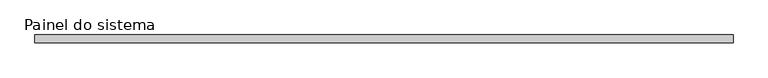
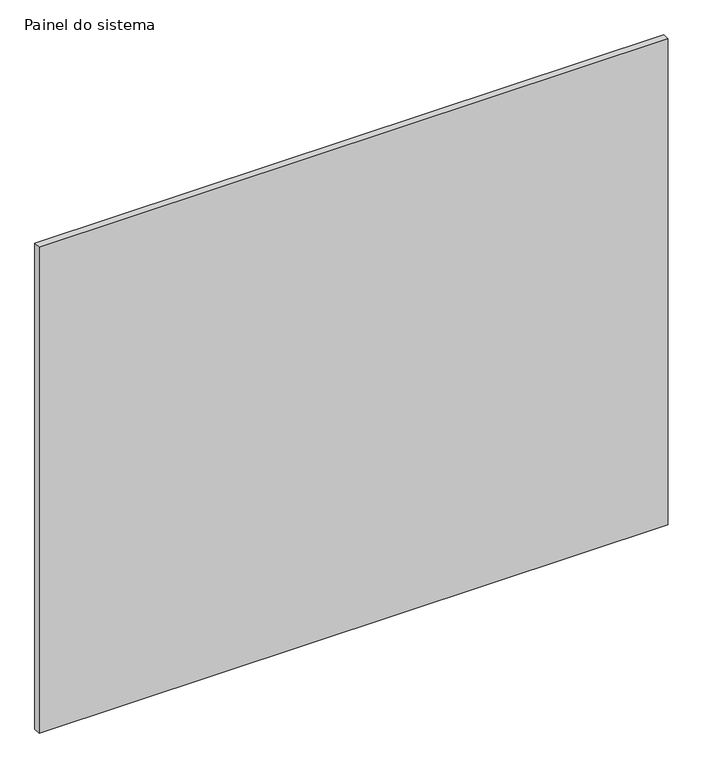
"""IFC4 building model written with IfcOpenShell, lengths in millimetres: plate geometry, Painel do sistema : ALAMBRADO."""

from ifc_helpers import new_model, si_unit, origin, origin_with_axes, place, context, project, spatial, polyline, outline, extrude, source, transform, mapped, element, save


def painel_do_sistema_f98686fd(model_context):
    return source(origin(), model_context, "Body", "SweptSolid", [
        extrude(outline(polyline([(1103.3333334, 24.5), (-1103.3333334, 24.5), (-1103.3333334, 49.5), (1103.3333334, 49.5), (1103.3333334, 24.5)])), origin_with_axes(), (0.0, 0.0, 1.0), 1800.0),
    ])


if __name__ == "__main__":
    model = new_model("IFC4")
    model_context = context("Model", 3, world=origin())
    ifc_project = project(units=[si_unit("LENGTHUNIT", "METRE", prefix="MILLI")], contexts=[model_context])
    site = spatial("IfcSite", under=ifc_project)
    building = spatial("IfcBuilding", under=site)
    placement = place(None, origin())
    painel_do_sistema_shape = painel_do_sistema_f98686fd(model_context)
    element("IfcPlate", 1, ObjectType="Painel do sistema : ALAMBRADO", at=placement, inside=building, context=model_context, shape_type="MappedRepresentation", body=[
        mapped(painel_do_sistema_shape, transform((0.0, 0.0, 0.0), x_axis=(1.0, 0.0, 0.0), y_axis=(0.0, 1.0, 0.0), z_axis=(0.0, 0.0, 1.0))),
    ])
    save(model, "model.ifc")
